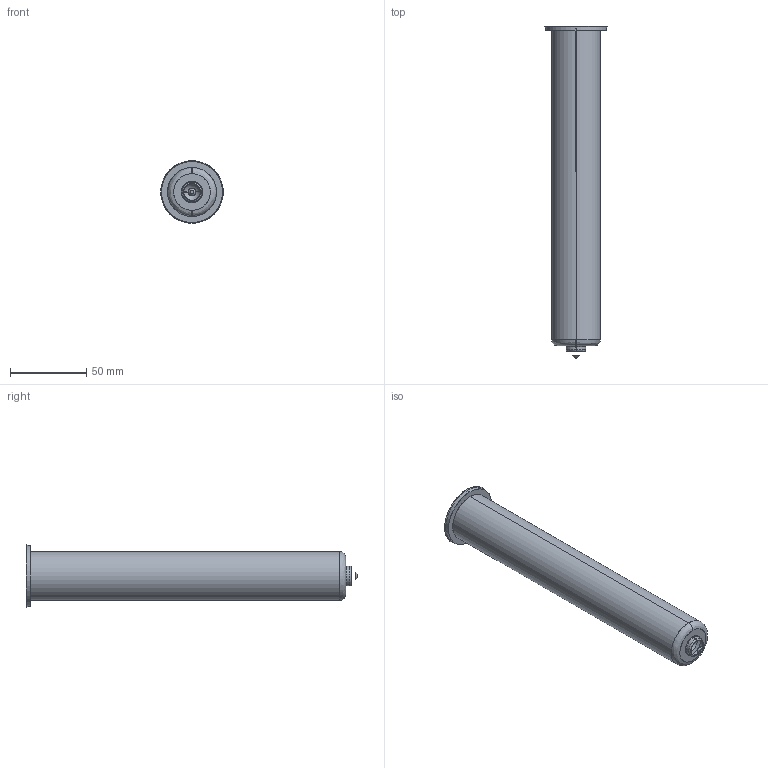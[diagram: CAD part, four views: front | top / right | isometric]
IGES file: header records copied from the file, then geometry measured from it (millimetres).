
Start section: SolidWorks IGES file using analytic representation for surfaces
Global section: file name: C:\Documents and Settings\ws-20\Desktop\TEM\Sede UGEP4505-M-A C-214 L-249 Ød-2.5.IGS; native system: SolidWorks 2012; preprocessor: SolidWorks 2012; author: ws-20; date: 120424.083745; units: millimetre
Bounding box: 41 x 217.54 x 41 mm (x, y, z)
Surface area: 23731.7 mm2 (no closed solid volume)
Topology: 0 solids, 0 shells, 25 faces, 436 edges, 436 vertices
Faces by surface type: revolution 16, bspline 9
